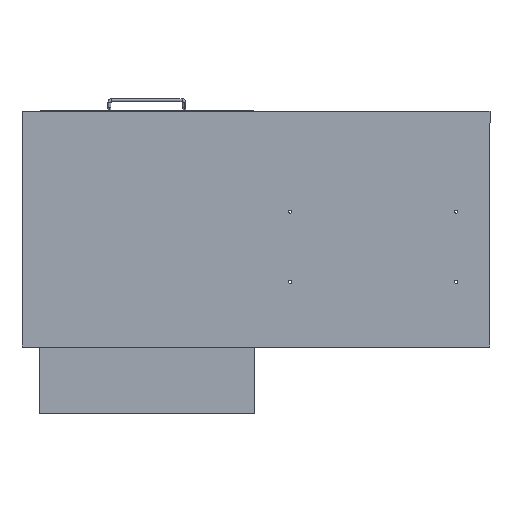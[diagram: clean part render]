
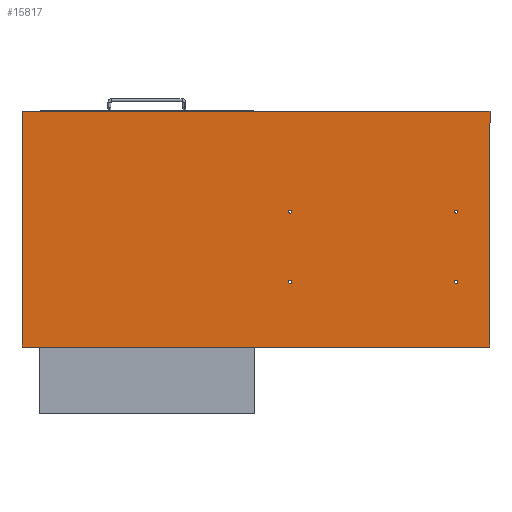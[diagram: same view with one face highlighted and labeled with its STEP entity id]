
A CAD part, front view. The second image highlights one B-rep face of the part: STEP entity #15817.
In plain terms, the highlighted planar face has unit normal (0, -1, 0).
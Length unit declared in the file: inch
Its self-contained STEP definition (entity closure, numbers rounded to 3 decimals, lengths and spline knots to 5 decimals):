
#952 = ORIENTED_EDGE ( 'NONE', *, *, #103542, .F. ) ;
#1609 = VERTEX_POINT ( 'NONE', #31954 ) ;
#2507 = AXIS2_PLACEMENT_3D ( 'NONE', #64858, #128342, #115827 ) ;
#2786 = DIRECTION ( 'NONE',  ( 0., 0., 1. ) ) ;
#5794 = CARTESIAN_POINT ( 'NONE',  ( -3.6532, -3.56409, -2.0288 ) ) ;
#7323 = AXIS2_PLACEMENT_3D ( 'NONE', #79380, #88464, #78006 ) ;
#8351 = VECTOR ( 'NONE', #13920, 39.37008 ) ;
#9835 = DIRECTION ( 'NONE',  ( 0., -1., 0. ) ) ;
#10423 = DIRECTION ( 'NONE',  ( 0., -1., 0. ) ) ;
#10568 = ORIENTED_EDGE ( 'NONE', *, *, #122035, .F. ) ;
#10960 = EDGE_CURVE ( 'NONE', #50746, #132014, #40836, .T. ) ;
#11029 = FACE_BOUND ( 'NONE', #113418, .T. ) ;
#12854 = VERTEX_POINT ( 'NONE', #76126 ) ;
#13489 = LINE ( 'NONE', #88278, #64100 ) ;
#13920 = DIRECTION ( 'NONE',  ( 0., 0., 1. ) ) ;
#15090 = VERTEX_POINT ( 'NONE', #21333 ) ;
#15817 = ADVANCED_FACE ( 'NONE', ( #105337, #96952, #11029, #22213, #42487 ), #73289, .F. ) ;
#18526 = CARTESIAN_POINT ( 'NONE',  ( -3.6532, -3.56409, 5.4712 ) ) ;
#20128 = ORIENTED_EDGE ( 'NONE', *, *, #71753, .F. ) ;
#20806 = CARTESIAN_POINT ( 'NONE',  ( -3.6532, -3.56409, -1.6848 ) ) ;
#21036 = ORIENTED_EDGE ( 'NONE', *, *, #64154, .F. ) ;
#21333 = CARTESIAN_POINT ( 'NONE',  ( -21.3782, -3.56409, -2.0288 ) ) ;
#21702 = EDGE_LOOP ( 'NONE', ( #952, #20128 ) ) ;
#22155 = DIRECTION ( 'NONE',  ( 0., -1., 0. ) ) ;
#22213 = FACE_BOUND ( 'NONE', #42202, .T. ) ;
#24132 = EDGE_CURVE ( 'NONE', #44540, #1609, #13489, .T. ) ;
#25344 = LINE ( 'NONE', #37197, #96060 ) ;
#27908 = EDGE_LOOP ( 'NONE', ( #72883, #72302, #43610, #69969 ) ) ;
#31547 = EDGE_LOOP ( 'NONE', ( #10568, #90502 ) ) ;
#31954 = CARTESIAN_POINT ( 'NONE',  ( 25., -3.56409, -12.597 ) ) ;
#32286 = EDGE_CURVE ( 'NONE', #63567, #12854, #33497, .T. ) ;
#33436 = AXIS2_PLACEMENT_3D ( 'NONE', #53730, #10423, #138214 ) ;
#33497 = LINE ( 'NONE', #108207, #8351 ) ;
#34222 = DIRECTION ( 'NONE',  ( 0., -1., 0. ) ) ;
#35483 = VERTEX_POINT ( 'NONE', #20806 ) ;
#37197 = CARTESIAN_POINT ( 'NONE',  ( -25., -3.56409, 12.597 ) ) ;
#39176 = EDGE_CURVE ( 'NONE', #132014, #50746, #75968, .T. ) ;
#40356 = VERTEX_POINT ( 'NONE', #18526 ) ;
#40836 = CIRCLE ( 'NONE', #7323, 0.172 ) ;
#41301 = AXIS2_PLACEMENT_3D ( 'NONE', #132509, #45251, #80179 ) ;
#41449 = AXIS2_PLACEMENT_3D ( 'NONE', #54291, #22155, #76662 ) ;
#41997 = CARTESIAN_POINT ( 'NONE',  ( -21.3782, -3.56409, -1.8568 ) ) ;
#42202 = EDGE_LOOP ( 'NONE', ( #48387, #87554 ) ) ;
#42487 = FACE_OUTER_BOUND ( 'NONE', #27908, .T. ) ;
#42653 = DIRECTION ( 'NONE',  ( 0., 0., 1. ) ) ;
#43610 = ORIENTED_EDGE ( 'NONE', *, *, #32286, .F. ) ;
#44540 = VERTEX_POINT ( 'NONE', #109470 ) ;
#45251 = DIRECTION ( 'NONE',  ( 0., -1., 0. ) ) ;
#45688 = LINE ( 'NONE', #88320, #94907 ) ;
#45994 = ORIENTED_EDGE ( 'NONE', *, *, #79860, .F. ) ;
#46351 = CIRCLE ( 'NONE', #124377, 0.172 ) ;
#46582 = EDGE_CURVE ( 'NONE', #15090, #90892, #110399, .T. ) ;
#48387 = ORIENTED_EDGE ( 'NONE', *, *, #39176, .F. ) ;
#49099 = DIRECTION ( 'NONE',  ( 0., 0., -1. ) ) ;
#50746 = VERTEX_POINT ( 'NONE', #70498 ) ;
#52036 = CARTESIAN_POINT ( 'NONE',  ( -3.6532, -3.56409, 5.6432 ) ) ;
#53730 = CARTESIAN_POINT ( 'NONE',  ( -21.3782, -3.56409, 5.6432 ) ) ;
#54291 = CARTESIAN_POINT ( 'NONE',  ( -3.6532, -3.56409, -1.8568 ) ) ;
#57309 = CARTESIAN_POINT ( 'NONE',  ( -21.3782, -3.56409, -1.6848 ) ) ;
#61871 = DIRECTION ( 'NONE',  ( 0., 0., 1. ) ) ;
#63567 = VERTEX_POINT ( 'NONE', #113679 ) ;
#64100 = VECTOR ( 'NONE', #49099, 39.37008 ) ;
#64153 = CIRCLE ( 'NONE', #86461, 0.172 ) ;
#64154 = EDGE_CURVE ( 'NONE', #40356, #91511, #64153, .T. ) ;
#64858 = CARTESIAN_POINT ( 'NONE',  ( 0., -3.56409, 0. ) ) ;
#67304 = DIRECTION ( 'NONE',  ( 1., 0., 0. ) ) ;
#69969 = ORIENTED_EDGE ( 'NONE', *, *, #102969, .F. ) ;
#70498 = CARTESIAN_POINT ( 'NONE',  ( -21.3782, -3.56409, 5.4712 ) ) ;
#71753 = EDGE_CURVE ( 'NONE', #131841, #35483, #89982, .T. ) ;
#72302 = ORIENTED_EDGE ( 'NONE', *, *, #129391, .F. ) ;
#72883 = ORIENTED_EDGE ( 'NONE', *, *, #24132, .F. ) ;
#73289 = PLANE ( 'NONE',  #2507 ) ;
#74136 = CARTESIAN_POINT ( 'NONE',  ( -3.6532, -3.56409, -1.8568 ) ) ;
#75968 = CIRCLE ( 'NONE', #33436, 0.172 ) ;
#76126 = CARTESIAN_POINT ( 'NONE',  ( -25., -3.56409, 12.597 ) ) ;
#76662 = DIRECTION ( 'NONE',  ( 0., 0., 1. ) ) ;
#78006 = DIRECTION ( 'NONE',  ( 0., 0., 1. ) ) ;
#79380 = CARTESIAN_POINT ( 'NONE',  ( -21.3782, -3.56409, 5.6432 ) ) ;
#79860 = EDGE_CURVE ( 'NONE', #91511, #40356, #46351, .T. ) ;
#80179 = DIRECTION ( 'NONE',  ( 0., 0., 1. ) ) ;
#82691 = CARTESIAN_POINT ( 'NONE',  ( -21.3782, -3.56409, 5.8152 ) ) ;
#84607 = DIRECTION ( 'NONE',  ( 0., -1., 0. ) ) ;
#86461 = AXIS2_PLACEMENT_3D ( 'NONE', #52036, #115585, #61871 ) ;
#87554 = ORIENTED_EDGE ( 'NONE', *, *, #10960, .F. ) ;
#88278 = CARTESIAN_POINT ( 'NONE',  ( 25., -3.56409, 12.597 ) ) ;
#88320 = CARTESIAN_POINT ( 'NONE',  ( 25., -3.56409, -12.597 ) ) ;
#88346 = CIRCLE ( 'NONE', #41449, 0.172 ) ;
#88464 = DIRECTION ( 'NONE',  ( 0., -1., 0. ) ) ;
#89469 = AXIS2_PLACEMENT_3D ( 'NONE', #41997, #84607, #97134 ) ;
#89982 = CIRCLE ( 'NONE', #132304, 0.172 ) ;
#90502 = ORIENTED_EDGE ( 'NONE', *, *, #46582, .F. ) ;
#90892 = VERTEX_POINT ( 'NONE', #57309 ) ;
#91511 = VERTEX_POINT ( 'NONE', #98935 ) ;
#94393 = CARTESIAN_POINT ( 'NONE',  ( -3.6532, -3.56409, 5.6432 ) ) ;
#94907 = VECTOR ( 'NONE', #119701, 39.37008 ) ;
#96060 = VECTOR ( 'NONE', #67304, 39.37008 ) ;
#96952 = FACE_BOUND ( 'NONE', #21702, .T. ) ;
#97134 = DIRECTION ( 'NONE',  ( 0., 0., 1. ) ) ;
#98935 = CARTESIAN_POINT ( 'NONE',  ( -3.6532, -3.56409, 5.8152 ) ) ;
#102969 = EDGE_CURVE ( 'NONE', #1609, #63567, #45688, .T. ) ;
#103542 = EDGE_CURVE ( 'NONE', #35483, #131841, #88346, .T. ) ;
#105337 = FACE_BOUND ( 'NONE', #31547, .T. ) ;
#107244 = CIRCLE ( 'NONE', #89469, 0.172 ) ;
#108207 = CARTESIAN_POINT ( 'NONE',  ( -25., -3.56409, -12.597 ) ) ;
#109470 = CARTESIAN_POINT ( 'NONE',  ( 25., -3.56409, 12.597 ) ) ;
#110399 = CIRCLE ( 'NONE', #41301, 0.172 ) ;
#113418 = EDGE_LOOP ( 'NONE', ( #45994, #21036 ) ) ;
#113679 = CARTESIAN_POINT ( 'NONE',  ( -25., -3.56409, -12.597 ) ) ;
#115585 = DIRECTION ( 'NONE',  ( 0., -1., 0. ) ) ;
#115827 = DIRECTION ( 'NONE',  ( 0., 0., 1. ) ) ;
#119701 = DIRECTION ( 'NONE',  ( -1., 0., 0. ) ) ;
#122035 = EDGE_CURVE ( 'NONE', #90892, #15090, #107244, .T. ) ;
#124377 = AXIS2_PLACEMENT_3D ( 'NONE', #94393, #9835, #2786 ) ;
#128342 = DIRECTION ( 'NONE',  ( 0., 1., 0. ) ) ;
#129391 = EDGE_CURVE ( 'NONE', #12854, #44540, #25344, .T. ) ;
#131841 = VERTEX_POINT ( 'NONE', #5794 ) ;
#132014 = VERTEX_POINT ( 'NONE', #82691 ) ;
#132304 = AXIS2_PLACEMENT_3D ( 'NONE', #74136, #34222, #42653 ) ;
#132509 = CARTESIAN_POINT ( 'NONE',  ( -21.3782, -3.56409, -1.8568 ) ) ;
#138214 = DIRECTION ( 'NONE',  ( 0., 0., 1. ) ) ;
